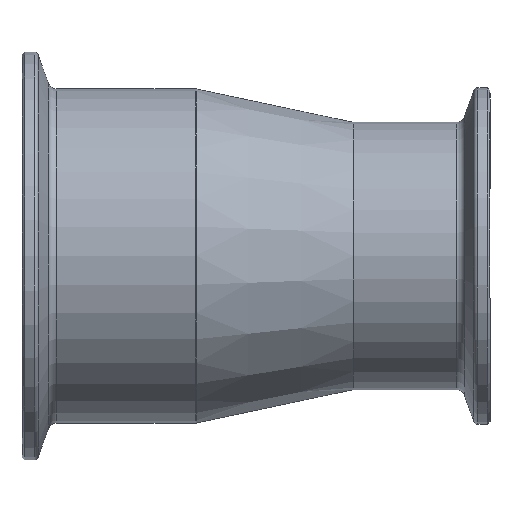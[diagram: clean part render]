
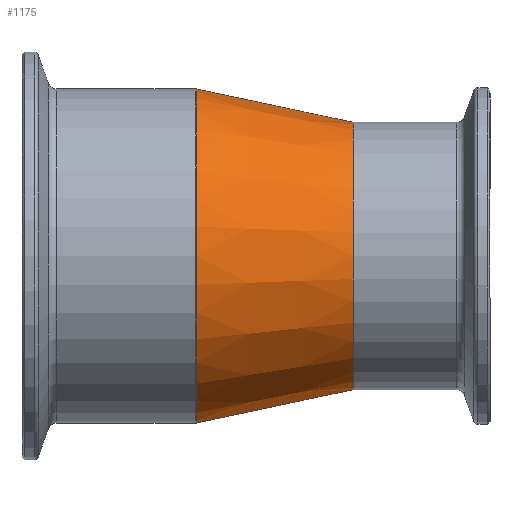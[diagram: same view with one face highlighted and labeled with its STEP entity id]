
A CAD part, top view. The second image highlights one B-rep face of the part: STEP entity #1175.
In plain terms, the highlighted conical face has half-angle 11.99 degrees and reference radius 31.75 mm.
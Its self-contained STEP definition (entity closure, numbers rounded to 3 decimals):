
#65 = AXIS2_PLACEMENT_3D ( 'NONE', #439, #1374, #1388 ) ;
#151 = LINE ( 'NONE', #317, #1543 ) ;
#179 = DIRECTION ( 'NONE',  ( -1., 0., 0. ) ) ;
#202 = EDGE_CURVE ( 'NONE', #1470, #354, #151, .T. ) ;
#280 = CARTESIAN_POINT ( 'NONE',  ( -55.818, -31.733, 0. ) ) ;
#317 = CARTESIAN_POINT ( 'NONE',  ( -55.9, 31.75, 0. ) ) ;
#354 = VERTEX_POINT ( 'NONE', #1282 ) ;
#391 = EDGE_LOOP ( 'NONE', ( #526, #425, #445, #444 ) ) ;
#409 = AXIS2_PLACEMENT_3D ( 'NONE', #1519, #179, #1647 ) ;
#425 = ORIENTED_EDGE ( 'NONE', *, *, #202, .T. ) ;
#439 = CARTESIAN_POINT ( 'NONE',  ( -26., 0., 0. ) ) ;
#444 = ORIENTED_EDGE ( 'NONE', *, *, #1228, .F. ) ;
#445 = ORIENTED_EDGE ( 'NONE', *, *, #1043, .T. ) ;
#460 = DIRECTION ( 'NONE',  ( -0.978, 0.208, 0. ) ) ;
#467 = VECTOR ( 'NONE', #989, 1000. ) ;
#526 = ORIENTED_EDGE ( 'NONE', *, *, #574, .F. ) ;
#574 = EDGE_CURVE ( 'NONE', #1470, #799, #950, .T. ) ;
#799 = VERTEX_POINT ( 'NONE', #1218 ) ;
#805 = CIRCLE ( 'NONE', #1573, 31.733 ) ;
#864 = CARTESIAN_POINT ( 'NONE',  ( -55.9, -31.75, 0. ) ) ;
#866 = FACE_OUTER_BOUND ( 'NONE', #391, .T. ) ;
#950 = CIRCLE ( 'NONE', #65, 25.4 ) ;
#989 = DIRECTION ( 'NONE',  ( -0.978, -0.208, 0. ) ) ;
#1035 = VERTEX_POINT ( 'NONE', #280 ) ;
#1043 = EDGE_CURVE ( 'NONE', #354, #1035, #805, .T. ) ;
#1069 = DIRECTION ( 'NONE',  ( 1., 0., 0. ) ) ;
#1095 = CARTESIAN_POINT ( 'NONE',  ( -55.818, 0., 0. ) ) ;
#1175 = ADVANCED_FACE ( 'NONE', ( #866 ), #1182, .T. ) ;
#1182 = CONICAL_SURFACE ( 'NONE', #409, 31.75, 0.209 ) ;
#1208 = DIRECTION ( 'NONE',  ( 0., -1., 0. ) ) ;
#1218 = CARTESIAN_POINT ( 'NONE',  ( -26., -25.4, 0. ) ) ;
#1228 = EDGE_CURVE ( 'NONE', #799, #1035, #1491, .T. ) ;
#1282 = CARTESIAN_POINT ( 'NONE',  ( -55.818, 31.733, 0. ) ) ;
#1307 = CARTESIAN_POINT ( 'NONE',  ( -26., 25.4, 0. ) ) ;
#1374 = DIRECTION ( 'NONE',  ( 1., 0., 0. ) ) ;
#1388 = DIRECTION ( 'NONE',  ( 0., 1., 0. ) ) ;
#1470 = VERTEX_POINT ( 'NONE', #1307 ) ;
#1491 = LINE ( 'NONE', #864, #467 ) ;
#1519 = CARTESIAN_POINT ( 'NONE',  ( -55.9, 0., 0. ) ) ;
#1543 = VECTOR ( 'NONE', #460, 1000. ) ;
#1573 = AXIS2_PLACEMENT_3D ( 'NONE', #1095, #1069, #1208 ) ;
#1647 = DIRECTION ( 'NONE',  ( 0., -1., 0. ) ) ;
